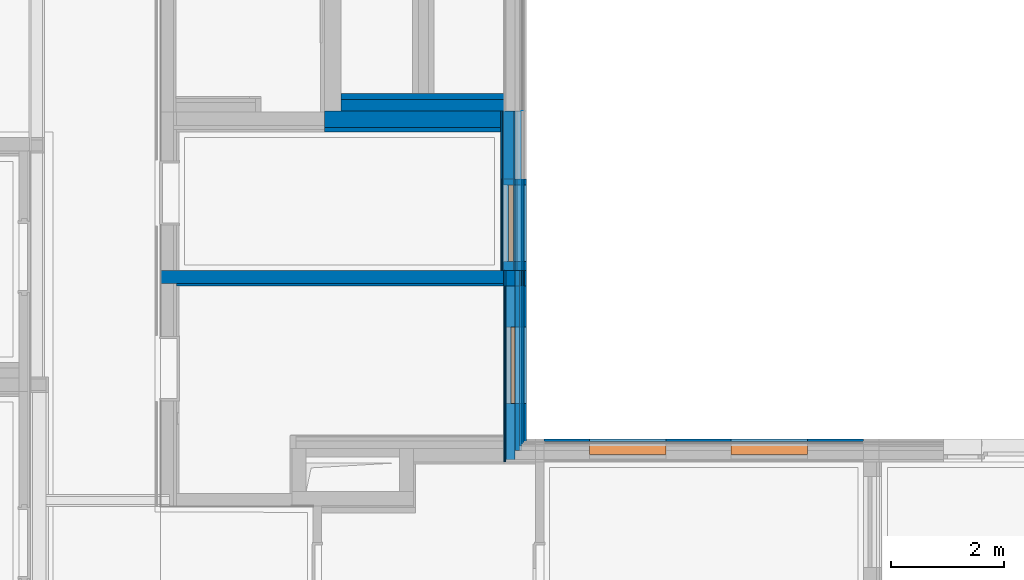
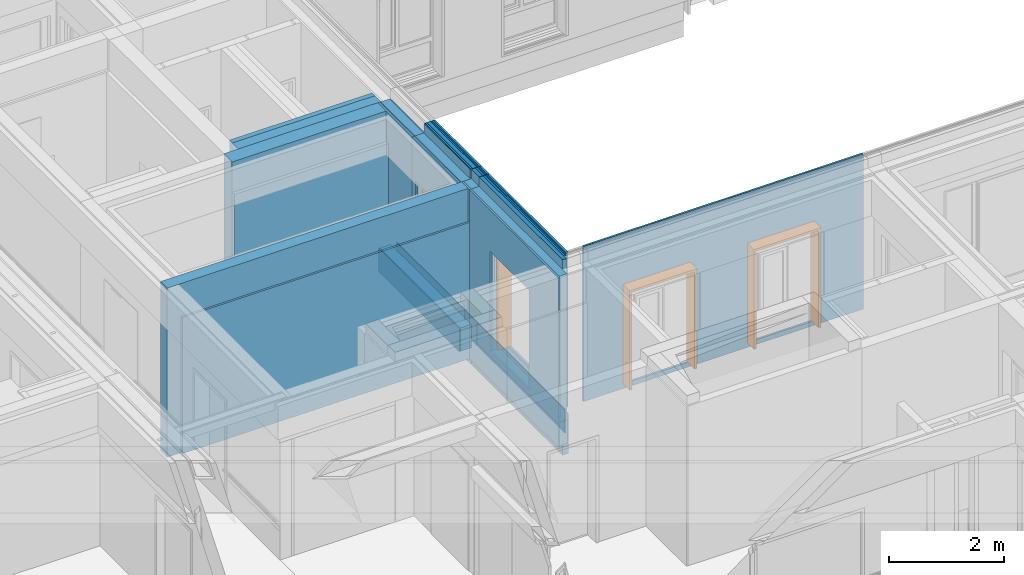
# One storey, part 30 of 207: 42 walls, 4 proxies, 18 openings.
"""IFC4 building model written with IfcOpenShell, lengths in metres."""

from ifc_helpers import new_model, entity, si_unit, converted_unit, derived_unit, frame, frame_2d, origin, origin_with_axes, place, context, subcontext, project, spatial, polyline, rectangle, outline, extrude, faceted_brep, material, element, fill, save


model = new_model("IFC4")

# Units and contexts
model_context = context("Model", 3, precision=1e-05, world=origin())
body_context = subcontext(model_context, "Body", "Model", "MODEL_VIEW")
ifc_project = project(units=[si_unit("LENGTHUNIT", "METRE"), si_unit("AREAUNIT", "SQUARE_METRE"), si_unit("VOLUMEUNIT", "CUBIC_METRE"), si_unit("MASSUNIT", "GRAM", prefix="KILO"), converted_unit("PLANEANGLEUNIT", "DEGREE", entity("IfcPlaneAngleMeasure", 0.0174532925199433), si_unit("PLANEANGLEUNIT", "RADIAN"), dimensions=[0, 0, 0, 0, 0, 0, 0]), derived_unit("THERMALTRANSMITTANCEUNIT", [(si_unit("POWERUNIT", "WATT"), 1), (si_unit("THERMODYNAMICTEMPERATUREUNIT", "KELVIN"), -1), (si_unit("LENGTHUNIT", "METRE"), -2)]), derived_unit("VOLUMETRICFLOWRATEUNIT", [(si_unit("LENGTHUNIT", "METRE"), 3), (converted_unit("TIMEUNIT", "hour", entity("IfcTimeMeasure", 3600.0), si_unit("TIMEUNIT", "SECOND"), dimensions=[0, 0, 1, 0, 0, 0, 0]), -1), (si_unit("LENGTHUNIT", "METRE"), -1)])], contexts=[model_context])

# Site, building, storey
site_placement = place(None, origin())
site = spatial("IfcSite", under=ifc_project, at=site_placement, Name="Psychiatrie Neubau Wunstorf", CompositionType="ELEMENT")
building_placement = place(site_placement, origin())
building = spatial("IfcBuilding", under=site, at=building_placement, Name="Neubau H2 Stationsgebäude", CompositionType="ELEMENT")
storey_placement = place(building_placement, frame((0.0, 0.0, -0.2)))
storey = spatial("IfcBuildingStorey", under=building, at=storey_placement, Name="H2 Ebene 0", CompositionType="ELEMENT", Elevation=-0.2)

# Wall, opening
ifc_material_1 = material(Name="WA-LB")
wall_1_placement = place(storey_placement, frame((43.9390000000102, 13.2174966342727, 0.5), z_axis=(0.0, 0.0, 1.0), x_axis=(2.34443846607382e-15, -1.0, 0.0)))
wall_1 = element("IfcWall", 1, at=wall_1_placement, inside=storey, material=ifc_material_1, context=body_context, shape_type="SweptSolid", body=[
    extrude(rectangle(XDim=3.10349694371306, YDim=0.036, at=frame_2d((1.55174847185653, 0.018), x_axis=(1.0, 0.0))), origin_with_axes(), (0.0, 0.0, 1.0), 3.1),
])
opening_1_placement = place(wall_1_placement, frame((2.07249694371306, 0.0360000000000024, 0.1), z_axis=(0.0, -1.0, 0.0), x_axis=(0.0, 0.0, 1.0)))
element("IfcOpeningElement", 2, at=opening_1_placement, cuts=wall_1, Name="Fensteröffnung", ObjectType="Opening", context=body_context, shape_type="SweptSolid", body=[
    extrude(outline(polyline([(2.12, 1.35), (2.12, 0.0), (0.0, 0.0), (0.0, 1.35), (2.12, 1.35)])), origin_with_axes(), (0.0, 0.0, 1.0), 0.036),
])

ifc_material_2 = material(Name="WA-HD")
wall_2_placement = place(storey_placement, frame((43.9750000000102, 13.2174966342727, 0.5), z_axis=(0.0, 0.0, 1.0), x_axis=(2.37195268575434e-15, -1.0, 0.0)))
wall_2 = element("IfcWall", 3, at=wall_2_placement, inside=storey, material=ifc_material_2, context=body_context, shape_type="SweptSolid", body=[
    extrude(rectangle(XDim=3.06749694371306, YDim=0.16, at=frame_2d((1.53374847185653, 0.08), x_axis=(1.0, 0.0))), origin_with_axes(), (0.0, 0.0, 1.0), 3.1),
])
opening_2_placement = place(wall_2_placement, frame((2.07249694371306, 0.160000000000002, 0.1), z_axis=(-2.8421709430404e-15, -1.0, 0.0), x_axis=(0.0, 0.0, 1.0)))
element("IfcOpeningElement", 4, at=opening_2_placement, cuts=wall_2, Name="Fensteröffnung", ObjectType="Opening", context=body_context, shape_type="SweptSolid", body=[
    extrude(outline(polyline([(2.12, 1.35), (2.12, 0.0), (0.0, 0.0), (0.0, 1.35), (2.12, 1.35)])), origin_with_axes(), (0.0, 0.0, 1.0), 0.16),
])

ifc_material_3 = material(Name="WA-DL")
wall_3_placement = place(storey_placement, frame((44.1350000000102, 13.2174966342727, 0.5), z_axis=(0.0, 0.0, 1.0), x_axis=(2.50248160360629e-15, -1.0, 0.0)))
wall_3 = element("IfcWall", 5, at=wall_3_placement, inside=storey, material=ifc_material_3, context=body_context, shape_type="SweptSolid", body=[
    extrude(rectangle(XDim=2.90749694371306, YDim=0.08, at=frame_2d((1.45374847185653, 0.04), x_axis=(1.0, 0.0))), origin_with_axes(), (0.0, 0.0, 1.0), 3.3),
])
opening_3_placement = place(wall_3_placement, frame((2.07249694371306, 0.0800000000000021, 0.1), z_axis=(0.0, -1.0, 0.0), x_axis=(0.0, 0.0, 1.0)))
element("IfcOpeningElement", 6, at=opening_3_placement, cuts=wall_3, Name="Fensteröffnung", ObjectType="Opening", context=body_context, shape_type="SweptSolid", body=[
    extrude(outline(polyline([(2.12, 1.35), (2.12, 0.0), (0.0, 0.0), (0.0, 1.35), (2.12, 1.35)])), origin_with_axes(), (0.0, 0.0, 1.0), 0.08),
])

ifc_material_4 = material(Name="WA-LB")
wall_4_placement = place(storey_placement, frame((44.2150000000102, 13.2174966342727, 0.5), z_axis=(0.0, 0.0, 1.0), x_axis=(2.5732857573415e-15, -1.0, 0.0)))
wall_4 = element("IfcWall", 7, at=wall_4_placement, inside=storey, material=ifc_material_4, context=body_context, shape_type="SweptSolid", body=[
    extrude(rectangle(XDim=2.82749694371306, YDim=0.036, at=frame_2d((1.41374847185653, 0.018), x_axis=(1.0, 0.0))), origin_with_axes(), (0.0, 0.0, 1.0), 3.3),
])
opening_4_placement = place(wall_4_placement, frame((2.07249694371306, 0.0360000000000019, 0.1), z_axis=(0.0, -1.0, 0.0), x_axis=(0.0, 0.0, 1.0)))
element("IfcOpeningElement", 8, at=opening_4_placement, cuts=wall_4, Name="Fensteröffnung", ObjectType="Opening", context=body_context, shape_type="SweptSolid", body=[
    extrude(outline(polyline([(2.12, 1.35), (2.12, 0.0), (0.0, 0.0), (0.0, 1.35), (2.12, 1.35)])), origin_with_axes(), (0.0, 0.0, 1.0), 0.036),
])

ifc_material_5 = material(Name="WA-KL")
wall_5_placement = place(storey_placement, frame((44.2510000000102, 13.2174966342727, 0.5), z_axis=(0.0, 0.0, 1.0), x_axis=(2.60647163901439e-15, -1.0, 0.0)))
wall_5 = element("IfcWall", 9, at=wall_5_placement, inside=storey, material=ifc_material_5, context=body_context, shape_type="SweptSolid", body=[
    extrude(rectangle(XDim=2.79149694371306, YDim=0.024, at=frame_2d((1.39574847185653, 0.012), x_axis=(1.0, 0.0))), origin_with_axes(), (0.0, 0.0, 1.0), 3.3),
])
opening_5_placement = place(wall_5_placement, frame((2.07249694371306, 0.0240000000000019, 0.1), z_axis=(0.0, -1.0, 0.0), x_axis=(0.0, 0.0, 1.0)))
element("IfcOpeningElement", 10, at=opening_5_placement, cuts=wall_5, Name="Fensteröffnung", ObjectType="Opening", context=body_context, shape_type="SweptSolid", body=[
    extrude(outline(polyline([(2.12, 1.35), (2.12, 0.0), (0.0, 0.0), (0.0, 1.35), (2.12, 1.35)])), origin_with_axes(), (0.0, 0.0, 1.0), 0.024),
])

ifc_material_6 = material(Name="WA-TL")
wall_6_placement = place(storey_placement, frame((44.2750000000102, 13.2174966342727, 0.5), z_axis=(0.0, 0.0, 1.0), x_axis=(2.62907521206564e-15, -1.0, 0.0)))
wall_6 = element("IfcWall", 11, at=wall_6_placement, inside=storey, material=ifc_material_6, context=body_context, shape_type="SweptSolid", body=[
    extrude(rectangle(XDim=2.76749694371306, YDim=0.024, at=frame_2d((1.38374847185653, 0.012), x_axis=(1.0, 0.0))), origin_with_axes(), (0.0, 0.0, 1.0), 3.3),
])
opening_6_placement = place(wall_6_placement, frame((2.07249694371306, 0.0240000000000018, 0.1), z_axis=(0.0, -1.0, 0.0), x_axis=(0.0, 0.0, 1.0)))
element("IfcOpeningElement", 12, at=opening_6_placement, cuts=wall_6, Name="Fensteröffnung", ObjectType="Opening", context=body_context, shape_type="SweptSolid", body=[
    extrude(outline(polyline([(2.12, 1.35), (2.12, 0.0), (0.0, 0.0), (0.0, 1.35), (2.12, 1.35)])), origin_with_axes(), (0.0, 0.0, 1.0), 0.024),
])

# Wall, opening, proxy
ifc_material_7 = material(Name="WA-HS")
wall_7_placement = place(storey_placement, frame((44.2990000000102, 13.2174966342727, 0.5), z_axis=(0.0, 0.0, 1.0), x_axis=(2.65207425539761e-15, -1.0, 0.0)))
wall_7 = element("IfcWall", 13, at=wall_7_placement, inside=storey, material=ifc_material_7, context=body_context, shape_type="SweptSolid", body=[
    extrude(rectangle(XDim=2.74349694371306, YDim=0.042, at=frame_2d((1.37174847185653, 0.021), x_axis=(1.0, 0.0))), origin_with_axes(), (0.0, 0.0, 1.0), 3.3),
])
opening_7_placement = place(wall_7_placement, frame((2.07249694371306, 0.0420000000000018, 0.1), z_axis=(0.0, -1.0, 0.0), x_axis=(0.0, 0.0, 1.0)))
opening_7 = element("IfcOpeningElement", 14, at=opening_7_placement, cuts=wall_7, Name="Fensteröffnung", ObjectType="Opening", context=body_context, shape_type="SweptSolid", body=[
    extrude(outline(polyline([(2.12, 1.35), (2.12, 0.0), (0.0, 0.0), (0.0, 1.35), (2.12, 1.35)])), origin_with_axes(), (0.0, 0.0, 1.0), 0.042),
])
ifc_material_8 = material(Name="WA-HS")
proxy_1_placement = place(opening_7_placement, frame((0.0, 0.0, 0.275000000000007)))
proxy_1 = element("IfcBuildingElementProxy", 15, at=proxy_1_placement, inside=storey, material=ifc_material_8, context=body_context, shape_type="Brep", body=[
    faceted_brep([(0.0, 0.0, -0.275000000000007), (0.0, 0.0, 0.0), (2.12, 0.0, 0.0), (2.12, 0.0, -0.275000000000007), (0.0, 0.05, 0.0), (0.0, 0.0500000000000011, -0.275000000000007), (2.07, 0.0500000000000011, -0.275000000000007), (2.07, 0.05, 0.0), (2.12, 1.35, 0.0), (2.12, 1.35, -0.275000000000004), (0.0, 1.35, -0.275000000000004), (0.0, 1.3, -0.275000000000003), (2.07, 1.3, -0.275000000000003), (2.07, 1.3, 0.0), (0.0, 1.3, 0.0), (0.0, 1.35, 0.0)], [[[0, 1, 2, 3]], [[4, 5, 6, 7]], [[0, 5, 4, 1]], [[3, 2, 8, 9]], [[6, 5, 0, 3, 9, 10, 11, 12]], [[13, 14, 15, 8, 2, 1, 4, 7]], [[7, 6, 12, 13]], [[11, 14, 13, 12]], [[15, 10, 9, 8]], [[11, 10, 15, 14]]], orient=[[False], [False], [False], [False], [False], [False], [False], [False], [False], [False]]),
])
fill(opening_7, proxy_1)

# Wall, openings, proxies
ifc_material_9 = material(Name="WA-HS")
wall_8_placement = place(storey_placement, frame((44.65, 10.4739996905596, 0.5), z_axis=(0.0, 0.0, 1.0), x_axis=(1.0, -3.22744748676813e-16, 0.0)))
wall_8 = element("IfcWall", 16, at=wall_8_placement, inside=storey, material=ifc_material_9, context=body_context, shape_type="SweptSolid", body=[
    extrude(rectangle(XDim=5.63600000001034, YDim=0.042, at=frame_2d((2.81800000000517, 0.021), x_axis=(1.0, 0.0))), origin_with_axes(), (0.0, 0.0, 1.0), 3.3),
])
opening_8_placement = place(wall_8_placement, frame((4.64870000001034, 0.0419999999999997, 0.1), z_axis=(0.0, -1.0, 0.0), x_axis=(0.0, 0.0, 1.0)))
opening_8 = element("IfcOpeningElement", 17, at=opening_8_placement, cuts=wall_8, Name="Fensteröffnung", ObjectType="Opening", context=body_context, shape_type="SweptSolid", body=[
    extrude(outline(polyline([(2.12, 1.35), (2.12, 0.0), (0.0, 0.0), (0.0, 1.35), (2.12, 1.35)])), origin_with_axes(), (0.0, 0.0, 1.0), 0.042),
])
opening_9_placement = place(wall_8_placement, frame((2.14870000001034, 0.0420000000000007, 0.1), z_axis=(0.0, -1.0, 0.0), x_axis=(0.0, 0.0, 1.0)))
opening_9 = element("IfcOpeningElement", 18, at=opening_9_placement, cuts=wall_8, Name="Fensteröffnung", ObjectType="Opening", context=body_context, shape_type="SweptSolid", body=[
    extrude(outline(polyline([(2.12, 1.35), (2.12, 0.0), (0.0, 0.0), (0.0, 1.35), (2.12, 1.35)])), origin_with_axes(), (0.0, 0.0, 1.0), 0.042),
])
ifc_material_10 = material(Name="WA-HS")
proxy_2_placement = place(opening_8_placement, frame((0.0, 1.35, 0.275)))
proxy_2 = element("IfcBuildingElementProxy", 19, at=proxy_2_placement, inside=storey, material=ifc_material_10, context=body_context, shape_type="Brep", body=[
    faceted_brep([(0.0, -1.35, -0.275), (0.0, -1.35, 0.0), (2.12, -1.35, 0.0), (2.12, -1.35, -0.275), (0.0, -1.3, 0.0), (0.0, -1.3, -0.275), (2.07, -1.3, -0.275), (2.07, -1.3, 0.0), (2.12, 0.0, 0.0), (2.12, 0.0, -0.275), (0.0, 0.0, -0.275), (0.0, -0.0499999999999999, -0.275), (2.07, -0.0499999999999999, -0.275), (2.07, -0.05, 0.0), (0.0, -0.05, 0.0), (0.0, 0.0, 0.0)], [[[0, 1, 2, 3]], [[4, 5, 6, 7]], [[0, 5, 4, 1]], [[3, 2, 8, 9]], [[6, 5, 0, 3, 9, 10, 11, 12]], [[13, 14, 15, 8, 2, 1, 4, 7]], [[7, 6, 12, 13]], [[11, 14, 13, 12]], [[15, 10, 9, 8]], [[11, 10, 15, 14]]], orient=[[False], [False], [False], [False], [False], [False], [False], [False], [False], [False]]),
])
fill(opening_8, proxy_2)
ifc_material_11 = material(Name="WA-HS")
proxy_3_placement = place(opening_9_placement, frame((0.0, 1.35, 0.275)))
proxy_3 = element("IfcBuildingElementProxy", 20, at=proxy_3_placement, inside=storey, material=ifc_material_11, context=body_context, shape_type="Brep", body=[
    faceted_brep([(0.0, -1.35, -0.275), (0.0, -1.35, 0.0), (2.12, -1.35, 0.0), (2.12, -1.35, -0.275), (0.0, -1.3, 0.0), (0.0, -1.3, -0.275), (2.07, -1.3, -0.275), (2.07, -1.3, 0.0), (2.12, 0.0, 0.0), (2.12, 0.0, -0.275), (0.0, 0.0, -0.275), (0.0, -0.0499999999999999, -0.275), (2.07, -0.0499999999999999, -0.275), (2.07, -0.05, 0.0), (0.0, -0.05, 0.0), (0.0, 0.0, 0.0)], [[[0, 1, 2, 3]], [[4, 5, 6, 7]], [[0, 5, 4, 1]], [[3, 2, 8, 9]], [[6, 5, 0, 3, 9, 10, 11, 12]], [[13, 14, 15, 8, 2, 1, 4, 7]], [[7, 6, 12, 13]], [[11, 14, 13, 12]], [[15, 10, 9, 8]], [[11, 10, 15, 14]]], orient=[[False], [False], [False], [False], [False], [False], [False], [False], [False], [False]]),
])
fill(opening_9, proxy_3)

# Walls
ifc_material_12 = material(Name="WA-LB")
wall_9_placement = place(storey_placement, frame((43.8790000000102, 16.3005060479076, 0.5), z_axis=(0.0, 0.0, 1.0), x_axis=(0.0, -1.0, 0.0)))
element("IfcWall", 21, at=wall_9_placement, inside=storey, material=ifc_material_12, context=body_context, shape_type="SweptSolid", body=[
    extrude(rectangle(XDim=1.19550635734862, YDim=0.036, at=frame_2d((0.597753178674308, 0.018), x_axis=(1.0, 0.0))), origin_with_axes(), (0.0, 0.0, 1.0), 3.1),
])
ifc_material_13 = material(Name="WA-LB")
wall_10_placement = place(storey_placement, frame((43.9150000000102, 16.3005060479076, 0.5), z_axis=(0.0, 0.0, 1.0), x_axis=(0.0, -1.0, 0.0)))
element("IfcWall", 22, at=wall_10_placement, inside=storey, material=ifc_material_13, context=body_context, shape_type="SweptSolid", body=[
    extrude(rectangle(XDim=1.19550635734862, YDim=0.019, at=frame_2d((0.597753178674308, 0.0095), x_axis=(1.0, 0.0))), origin_with_axes(), (0.0, 0.0, 1.0), 3.1),
])
ifc_material_14 = material(Name="WA-HD")
wall_11_placement = place(storey_placement, frame((43.9340000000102, 16.3005060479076, 0.5), z_axis=(0.0, 0.0, 1.0), x_axis=(0.0, -1.0, 0.0)))
element("IfcWall", 23, at=wall_11_placement, inside=storey, material=ifc_material_14, context=body_context, shape_type="SweptSolid", body=[
    extrude(rectangle(XDim=1.19550635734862, YDim=0.18, at=frame_2d((0.597753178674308, 0.09), x_axis=(1.0, 0.0))), origin_with_axes(), (0.0, 0.0, 1.0), 3.1),
])
ifc_material_15 = material(Name="WA-LB")
wall_12_placement = place(storey_placement, frame((44.1140000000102, 16.3005060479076, 0.5), z_axis=(0.0, 0.0, 1.0), x_axis=(0.0, -1.0, 0.0)))
element("IfcWall", 24, at=wall_12_placement, inside=storey, material=ifc_material_15, context=body_context, shape_type="SweptSolid", body=[
    extrude(rectangle(XDim=1.19550635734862, YDim=0.019, at=frame_2d((0.597753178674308, 0.0095), x_axis=(1.0, 0.0))), origin_with_axes(), (0.0, 0.0, 1.0), 3.1),
])

# Wall, opening
ifc_material_16 = material(Name="WA-LB")
wall_13_placement = place(storey_placement, frame((43.8790000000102, 15.1049996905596, 0.5), z_axis=(0.0, 0.0, 1.0), x_axis=(0.0, -1.0, 0.0)))
wall_13 = element("IfcWall", 25, at=wall_13_placement, inside=storey, material=ifc_material_16, context=body_context, shape_type="SweptSolid", body=[
    extrude(rectangle(XDim=1.6155030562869, YDim=0.036, at=frame_2d((0.807751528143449, 0.018), x_axis=(1.0, 0.0))), origin_with_axes(), (0.0, 0.0, 1.0), 3.1),
])
opening_10_placement = place(wall_13_placement, frame((1.4600030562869, 0.036, 0.1), z_axis=(0.0, -1.0, 0.0), x_axis=(0.0, 0.0, 1.0)))
element("IfcOpeningElement", 26, at=opening_10_placement, cuts=wall_13, Name="Fensteröffnung", ObjectType="Opening", context=body_context, shape_type="SweptSolid", body=[
    extrude(outline(polyline([(2.12, 1.35), (2.12, 0.0), (0.0, 0.0), (0.0, 1.35), (2.12, 1.35)])), origin_with_axes(), (0.0, 0.0, 1.0), 0.036),
])

ifc_material_17 = material(Name="WA-LB")
wall_14_placement = place(storey_placement, frame((43.9150000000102, 15.1049996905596, 0.5), z_axis=(0.0, 0.0, 1.0), x_axis=(0.0, -1.0, 0.0)))
wall_14 = element("IfcWall", 27, at=wall_14_placement, inside=storey, material=ifc_material_17, context=body_context, shape_type="SweptSolid", body=[
    extrude(rectangle(XDim=1.6155030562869, YDim=0.019, at=frame_2d((0.807751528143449, 0.0095), x_axis=(1.0, 0.0))), origin_with_axes(), (0.0, 0.0, 1.0), 3.1),
])
opening_11_placement = place(wall_14_placement, frame((1.4600030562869, 0.019, 0.1), z_axis=(0.0, -1.0, 0.0), x_axis=(0.0, 0.0, 1.0)))
element("IfcOpeningElement", 28, at=opening_11_placement, cuts=wall_14, Name="Fensteröffnung", ObjectType="Opening", context=body_context, shape_type="SweptSolid", body=[
    extrude(outline(polyline([(2.12, 1.35), (2.12, 0.0), (0.0, 0.0), (0.0, 1.35), (2.12, 1.35)])), origin_with_axes(), (0.0, 0.0, 1.0), 0.019),
])

ifc_material_18 = material(Name="WA-HD")
wall_15_placement = place(storey_placement, frame((43.9340000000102, 15.1049996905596, 0.5), z_axis=(0.0, 0.0, 1.0), x_axis=(0.0, -1.0, 0.0)))
wall_15 = element("IfcWall", 29, at=wall_15_placement, inside=storey, material=ifc_material_18, context=body_context, shape_type="SweptSolid", body=[
    extrude(rectangle(XDim=1.6155030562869, YDim=0.18, at=frame_2d((0.807751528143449, 0.09), x_axis=(1.0, 0.0))), origin_with_axes(), (0.0, 0.0, 1.0), 3.1),
])
opening_12_placement = place(wall_15_placement, frame((1.4600030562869, 0.18, 0.1), z_axis=(0.0, -1.0, 0.0), x_axis=(0.0, 0.0, 1.0)))
element("IfcOpeningElement", 30, at=opening_12_placement, cuts=wall_15, Name="Fensteröffnung", ObjectType="Opening", context=body_context, shape_type="SweptSolid", body=[
    extrude(outline(polyline([(2.12, 1.35), (2.12, 0.0), (0.0, 0.0), (0.0, 1.35), (2.12, 1.35)])), origin_with_axes(), (0.0, 0.0, 1.0), 0.18),
])

ifc_material_19 = material(Name="WA-LB")
wall_16_placement = place(storey_placement, frame((44.1140000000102, 15.1049996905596, 0.5), z_axis=(0.0, 0.0, 1.0), x_axis=(0.0, -1.0, 0.0)))
wall_16 = element("IfcWall", 31, at=wall_16_placement, inside=storey, material=ifc_material_19, context=body_context, shape_type="SweptSolid", body=[
    extrude(rectangle(XDim=1.6155030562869, YDim=0.019, at=frame_2d((0.807751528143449, 0.0095), x_axis=(1.0, 0.0))), origin_with_axes(), (0.0, 0.0, 1.0), 3.3),
])
opening_13_placement = place(wall_16_placement, frame((1.4600030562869, 0.019, 0.1), z_axis=(0.0, -1.0, 0.0), x_axis=(0.0, 0.0, 1.0)))
element("IfcOpeningElement", 32, at=opening_13_placement, cuts=wall_16, Name="Fensteröffnung", ObjectType="Opening", context=body_context, shape_type="SweptSolid", body=[
    extrude(outline(polyline([(2.12, 1.35), (2.12, 0.0), (0.0, 0.0), (0.0, 1.35), (2.12, 1.35)])), origin_with_axes(), (0.0, 0.0, 1.0), 0.019),
])

ifc_material_20 = material(Name="WA-LB")
wall_17_placement = place(storey_placement, frame((44.1330000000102, 15.1049996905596, 0.5), z_axis=(0.0, 0.0, 1.0), x_axis=(0.0, -1.0, 0.0)))
wall_17 = element("IfcWall", 33, at=wall_17_placement, inside=storey, material=ifc_material_20, context=body_context, shape_type="SweptSolid", body=[
    extrude(rectangle(XDim=1.6155030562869, YDim=0.036, at=frame_2d((0.807751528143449, 0.018), x_axis=(1.0, 0.0))), origin_with_axes(), (0.0, 0.0, 1.0), 3.3),
])
opening_14_placement = place(wall_17_placement, frame((1.4600030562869, 0.036, 0.1), z_axis=(0.0, -1.0, 0.0), x_axis=(0.0, 0.0, 1.0)))
element("IfcOpeningElement", 34, at=opening_14_placement, cuts=wall_17, Name="Fensteröffnung", ObjectType="Opening", context=body_context, shape_type="SweptSolid", body=[
    extrude(outline(polyline([(2.12, 1.35), (2.12, 0.0), (0.0, 0.0), (0.0, 1.35), (2.12, 1.35)])), origin_with_axes(), (0.0, 0.0, 1.0), 0.036),
])

ifc_material_21 = material(Name="WA-DL")
wall_18_placement = place(storey_placement, frame((44.1690000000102, 15.1049996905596, 0.5), z_axis=(0.0, 0.0, 1.0), x_axis=(0.0, -1.0, 0.0)))
wall_18 = element("IfcWall", 35, at=wall_18_placement, inside=storey, material=ifc_material_21, context=body_context, shape_type="SweptSolid", body=[
    extrude(rectangle(XDim=1.6155030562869, YDim=0.08, at=frame_2d((0.807751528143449, 0.04), x_axis=(1.0, 0.0))), origin_with_axes(), (0.0, 0.0, 1.0), 3.3),
])
opening_15_placement = place(wall_18_placement, frame((1.4600030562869, 0.08, 0.1), z_axis=(0.0, -1.0, 0.0), x_axis=(0.0, 0.0, 1.0)))
element("IfcOpeningElement", 36, at=opening_15_placement, cuts=wall_18, Name="Fensteröffnung", ObjectType="Opening", context=body_context, shape_type="SweptSolid", body=[
    extrude(outline(polyline([(2.12, 1.35), (2.12, 0.0), (0.0, 0.0), (0.0, 1.35), (2.12, 1.35)])), origin_with_axes(), (0.0, 0.0, 1.0), 0.08),
])

ifc_material_22 = material(Name="WA-KL")
wall_19_placement = place(storey_placement, frame((44.2490000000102, 15.1049996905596, 0.5), z_axis=(0.0, 0.0, 1.0), x_axis=(0.0, -1.0, 0.0)))
wall_19 = element("IfcWall", 37, at=wall_19_placement, inside=storey, material=ifc_material_22, context=body_context, shape_type="SweptSolid", body=[
    extrude(rectangle(XDim=1.6155030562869, YDim=0.025, at=frame_2d((0.807751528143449, 0.0125), x_axis=(1.0, 0.0))), origin_with_axes(), (0.0, 0.0, 1.0), 3.3),
])
opening_16_placement = place(wall_19_placement, frame((1.4600030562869, 0.025, 0.1), z_axis=(0.0, -1.0, 0.0), x_axis=(0.0, 0.0, 1.0)))
element("IfcOpeningElement", 38, at=opening_16_placement, cuts=wall_19, Name="Fensteröffnung", ObjectType="Opening", context=body_context, shape_type="SweptSolid", body=[
    extrude(outline(polyline([(2.12, 1.35), (2.12, 0.0), (0.0, 0.0), (0.0, 1.35), (2.12, 1.35)])), origin_with_axes(), (0.0, 0.0, 1.0), 0.025),
])

ifc_material_23 = material(Name="WA-TL")
wall_20_placement = place(storey_placement, frame((44.2740000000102, 15.1049996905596, 0.5), z_axis=(0.0, 0.0, 1.0), x_axis=(0.0, -1.0, 0.0)))
wall_20 = element("IfcWall", 39, at=wall_20_placement, inside=storey, material=ifc_material_23, context=body_context, shape_type="SweptSolid", body=[
    extrude(rectangle(XDim=1.6155030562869, YDim=0.025, at=frame_2d((0.807751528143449, 0.0125), x_axis=(1.0, 0.0))), origin_with_axes(), (0.0, 0.0, 1.0), 3.3),
])
opening_17_placement = place(wall_20_placement, frame((1.4600030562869, 0.025, 0.1), z_axis=(0.0, -1.0, 0.0), x_axis=(0.0, 0.0, 1.0)))
element("IfcOpeningElement", 40, at=opening_17_placement, cuts=wall_20, Name="Fensteröffnung", ObjectType="Opening", context=body_context, shape_type="SweptSolid", body=[
    extrude(outline(polyline([(2.12, 1.35), (2.12, 0.0), (0.0, 0.0), (0.0, 1.35), (2.12, 1.35)])), origin_with_axes(), (0.0, 0.0, 1.0), 0.025),
])

# Wall, opening, proxy
ifc_material_24 = material(Name="WA-HS")
wall_21_placement = place(storey_placement, frame((44.2990000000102, 15.1049996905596, 0.5), z_axis=(0.0, 0.0, 1.0), x_axis=(0.0, -1.0, 0.0)))
wall_21 = element("IfcWall", 41, at=wall_21_placement, inside=storey, material=ifc_material_24, context=body_context, shape_type="SweptSolid", body=[
    extrude(rectangle(XDim=1.6155030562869, YDim=0.042, at=frame_2d((0.807751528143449, 0.021), x_axis=(1.0, 0.0))), origin_with_axes(), (0.0, 0.0, 1.0), 3.3),
])
opening_18_placement = place(wall_21_placement, frame((1.4600030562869, 0.042, 0.1), z_axis=(0.0, -1.0, 0.0), x_axis=(0.0, 0.0, 1.0)))
opening_18 = element("IfcOpeningElement", 42, at=opening_18_placement, cuts=wall_21, Name="Fensteröffnung", ObjectType="Opening", context=body_context, shape_type="SweptSolid", body=[
    extrude(outline(polyline([(2.12, 1.35), (2.12, 0.0), (0.0, 0.0), (0.0, 1.35), (2.12, 1.35)])), origin_with_axes(), (0.0, 0.0, 1.0), 0.042),
])
ifc_material_25 = material(Name="WA-HS")
proxy_4_placement = place(opening_18_placement, frame((0.0, 0.0, 0.315)))
proxy_4 = element("IfcBuildingElementProxy", 43, at=proxy_4_placement, inside=storey, material=ifc_material_25, context=body_context, shape_type="Brep", body=[
    faceted_brep([(0.0, 0.0, -0.315), (0.0, 0.0, 0.0), (2.12, 0.0, 0.0), (2.12, 0.0, -0.315), (0.0, 0.05, 0.0), (0.0, 0.05, -0.315), (2.07, 0.05, -0.315), (2.07, 0.05, 0.0), (2.12, 1.35, 0.0), (2.12, 1.35, -0.315), (0.0, 1.35, -0.315), (0.0, 1.3, -0.315), (2.07, 1.3, -0.315), (2.07, 1.3, 0.0), (0.0, 1.3, 0.0), (0.0, 1.35, 0.0)], [[[0, 1, 2, 3]], [[4, 5, 6, 7]], [[0, 5, 4, 1]], [[3, 2, 8, 9]], [[6, 5, 0, 3, 9, 10, 11, 12]], [[13, 14, 15, 8, 2, 1, 4, 7]], [[7, 6, 12, 13]], [[11, 14, 13, 12]], [[15, 10, 9, 8]], [[11, 10, 15, 14]]], orient=[[False], [False], [False], [False], [False], [False], [False], [False], [False], [False]]),
])
fill(opening_18, proxy_4)

# Walls
ifc_material_26 = material(Name="WA-LB")
wall_22_placement = place(storey_placement, frame((43.9390000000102, 13.4894966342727, 0.5), z_axis=(0.0, 0.0, 1.0), x_axis=(0.0, -1.0, 0.0)))
element("IfcWall", 44, at=wall_22_placement, inside=storey, material=ifc_material_26, context=body_context, shape_type="SweptSolid", body=[
    extrude(rectangle(XDim=0.272, YDim=0.036, at=frame_2d((0.136, 0.018), x_axis=(1.0, 0.0))), origin_with_axes(), (0.0, 0.0, 1.0), 3.1),
])
ifc_material_27 = material(Name="WA-HD")
wall_23_placement = place(storey_placement, frame((43.9750000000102, 13.4894966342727, 0.5), z_axis=(0.0, 0.0, 1.0), x_axis=(0.0, -1.0, 0.0)))
element("IfcWall", 45, at=wall_23_placement, inside=storey, material=ifc_material_27, context=body_context, shape_type="SweptSolid", body=[
    extrude(rectangle(XDim=0.272, YDim=0.16, at=frame_2d((0.136, 0.08), x_axis=(1.0, 0.0))), origin_with_axes(), (0.0, 0.0, 1.0), 3.1),
])
ifc_material_28 = material(Name="WA-DL")
wall_24_placement = place(storey_placement, frame((44.1350000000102, 13.4894966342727, 0.5), z_axis=(0.0, 0.0, 1.0), x_axis=(0.0, -1.0, 0.0)))
element("IfcWall", 46, at=wall_24_placement, inside=storey, material=ifc_material_28, context=body_context, shape_type="SweptSolid", body=[
    extrude(rectangle(XDim=0.272, YDim=0.08, at=frame_2d((0.136, 0.04), x_axis=(1.0, 0.0))), origin_with_axes(), (0.0, 0.0, 1.0), 3.3),
])
ifc_material_29 = material(Name="WA-TP")
wall_25_placement = place(storey_placement, frame((44.2150000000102, 13.4894966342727, 0.5), z_axis=(0.0, 0.0, 1.0), x_axis=(0.0, -1.0, 0.0)))
element("IfcWall", 47, at=wall_25_placement, inside=storey, material=ifc_material_29, context=body_context, shape_type="SweptSolid", body=[
    extrude(rectangle(XDim=0.272, YDim=0.036, at=frame_2d((0.136, 0.018), x_axis=(1.0, 0.0))), origin_with_axes(), (0.0, 0.0, 1.0), 3.3),
])
ifc_material_30 = material(Name="WA-KL")
wall_26_placement = place(storey_placement, frame((44.2510000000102, 13.4894966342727, 0.5), z_axis=(0.0, 0.0, 1.0), x_axis=(0.0, -1.0, 0.0)))
element("IfcWall", 48, at=wall_26_placement, inside=storey, material=ifc_material_30, context=body_context, shape_type="SweptSolid", body=[
    extrude(rectangle(XDim=0.272, YDim=0.024, at=frame_2d((0.136, 0.012), x_axis=(1.0, 0.0))), origin_with_axes(), (0.0, 0.0, 1.0), 3.3),
])
ifc_material_31 = material(Name="WA-TL")
wall_27_placement = place(storey_placement, frame((44.2750000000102, 13.4894966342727, 0.5), z_axis=(0.0, 0.0, 1.0), x_axis=(0.0, -1.0, 0.0)))
element("IfcWall", 49, at=wall_27_placement, inside=storey, material=ifc_material_31, context=body_context, shape_type="SweptSolid", body=[
    extrude(rectangle(XDim=0.272, YDim=0.024, at=frame_2d((0.136, 0.012), x_axis=(1.0, 0.0))), origin_with_axes(), (0.0, 0.0, 1.0), 3.3),
])
ifc_material_32 = material(Name="WA-HS")
wall_28_placement = place(storey_placement, frame((44.2990000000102, 13.4894966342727, 0.5), z_axis=(0.0, 0.0, 1.0), x_axis=(0.0, -1.0, 0.0)))
element("IfcWall", 50, at=wall_28_placement, inside=storey, material=ifc_material_32, context=body_context, shape_type="SweptSolid", body=[
    extrude(rectangle(XDim=0.272, YDim=0.042, at=frame_2d((0.136, 0.021), x_axis=(1.0, 0.0))), origin_with_axes(), (0.0, 0.0, 1.0), 3.3),
])
ifc_material_33 = material(Name="WA-LB")
wall_29_placement = place(storey_placement, frame((43.9390000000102, 13.4894966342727, 0.0), z_axis=(0.0, 0.0, 1.0), x_axis=(2.15552190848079e-15, -1.0, 0.0)))
element("IfcWall", 51, at=wall_29_placement, inside=storey, material=ifc_material_33, context=body_context, shape_type="SweptSolid", body=[
    extrude(rectangle(XDim=3.37549694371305, YDim=0.021, at=frame_2d((1.68774847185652, 0.0105), x_axis=(1.0, 0.0))), origin_with_axes(), (0.0, 0.0, 1.0), 0.5),
])
ifc_material_34 = material(Name="WA-STB")
wall_30_placement = place(storey_placement, frame((43.9600000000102, 13.4894966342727, 0.0), z_axis=(0.0, 0.0, 1.0), x_axis=(2.16901602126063e-15, -1.0, 0.0)))
element("IfcWall", 52, at=wall_30_placement, inside=storey, material=ifc_material_34, context=body_context, shape_type="SweptSolid", body=[
    extrude(rectangle(XDim=3.35449694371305, YDim=0.175, at=frame_2d((1.67724847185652, 0.0875), x_axis=(1.0, 0.0))), origin_with_axes(), (0.0, 0.0, 1.0), 0.5),
])
ifc_material_35 = material(Name="WA-DE")
wall_31_placement = place(storey_placement, frame((44.1350000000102, 13.4894966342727, -0.36), z_axis=(0.0, 0.0, 1.0), x_axis=(2.28839899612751e-15, -1.0, 0.0)))
element("IfcWall", 53, at=wall_31_placement, inside=storey, material=ifc_material_35, context=body_context, shape_type="SweptSolid", body=[
    extrude(rectangle(XDim=3.17949694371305, YDim=0.12, at=frame_2d((1.58974847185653, 0.06), x_axis=(1.0, 0.0))), origin_with_axes(), (0.0, 0.0, 1.0), 0.86),
])
ifc_material_36 = material(Name="WA-LB")
wall_32_placement = place(storey_placement, frame((44.2550000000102, 13.4894966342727, 0.0), z_axis=(0.0, 0.0, 1.0), x_axis=(2.37815488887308e-15, -1.0, 0.0)))
element("IfcWall", 54, at=wall_32_placement, inside=storey, material=ifc_material_36, context=body_context, shape_type="SweptSolid", body=[
    extrude(rectangle(XDim=3.05949694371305, YDim=0.015, at=frame_2d((1.52974847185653, 0.0075), x_axis=(1.0, 0.0))), origin_with_axes(), (0.0, 0.0, 1.0), 0.5),
])
ifc_material_37 = material(Name="WA-LB")
wall_33_placement = place(storey_placement, frame((43.8940000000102, 16.3005060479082, 0.0), z_axis=(0.0, 0.0, 1.0), x_axis=(0.0, -1.0, 0.0)))
element("IfcWall", 55, at=wall_33_placement, inside=storey, material=ifc_material_37, context=body_context, shape_type="SweptSolid", body=[
    extrude(rectangle(XDim=2.81100941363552, YDim=0.021, at=frame_2d((1.40550470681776, 0.0105), x_axis=(1.0, 0.0))), origin_with_axes(), (0.0, 0.0, 1.0), 0.5),
])
ifc_material_38 = material(Name="WA-STB")
wall_34_placement = place(storey_placement, frame((43.9150000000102, 16.3005060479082, 0.0), z_axis=(0.0, 0.0, 1.0), x_axis=(0.0, -1.0, 0.0)))
element("IfcWall", 56, at=wall_34_placement, inside=storey, material=ifc_material_38, context=body_context, shape_type="SweptSolid", body=[
    extrude(rectangle(XDim=2.81100941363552, YDim=0.22, at=frame_2d((1.40550470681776, 0.11), x_axis=(1.0, 0.0))), origin_with_axes(), (0.0, 0.0, 1.0), 0.5),
])
ifc_material_39 = material(Name="WA-DE")
wall_35_placement = place(storey_placement, frame((44.1350000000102, 16.3005060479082, -0.36), z_axis=(0.0, 0.0, 1.0), x_axis=(0.0, -1.0, 0.0)))
element("IfcWall", 57, at=wall_35_placement, inside=storey, material=ifc_material_39, context=body_context, shape_type="SweptSolid", body=[
    extrude(rectangle(XDim=2.81100941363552, YDim=0.12, at=frame_2d((1.40550470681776, 0.06), x_axis=(1.0, 0.0))), origin_with_axes(), (0.0, 0.0, 1.0), 0.86),
])
ifc_material_40 = material(Name="WA-LB")
wall_36_placement = place(storey_placement, frame((44.2550000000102, 16.3005060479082, 0.0), z_axis=(0.0, 0.0, 1.0), x_axis=(0.0, -1.0, 0.0)))
element("IfcWall", 58, at=wall_36_placement, inside=storey, material=ifc_material_40, context=body_context, shape_type="SweptSolid", body=[
    extrude(rectangle(XDim=2.81100941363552, YDim=0.015, at=frame_2d((1.40550470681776, 0.0075), x_axis=(1.0, 0.0))), origin_with_axes(), (0.0, 0.0, 1.0), 0.5),
])
ifc_material_41 = material(Name="Installationsraum")
wall_37_placement = place(storey_placement, frame((41.0690000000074, 16.3005060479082, 0.0)))
element("IfcWall", 59, at=wall_37_placement, inside=storey, material=ifc_material_41, context=body_context, shape_type="SweptSolid", body=[
    extrude(rectangle(XDim=2.87, YDim=0.21, at=frame_2d((1.435, 0.105), x_axis=(1.0, 0.0))), origin_with_axes(), (0.0, 0.0, 1.0), 3.6),
])
ifc_material_42 = material(Name="WI-VS")
wall_38_placement = place(storey_placement, frame((41.0690000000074, 16.5105060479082, 0.0)))
element("IfcWall", 60, at=wall_38_placement, inside=storey, material=ifc_material_42, context=body_context, shape_type="SweptSolid", body=[
    extrude(rectangle(XDim=2.87, YDim=0.1, at=frame_2d((1.435, 0.05), x_axis=(1.0, 0.0))), origin_with_axes(), (0.0, 0.0, 1.0), 3.6),
])
ifc_material_43 = material(Name="WI-HW 60")
wall_39_placement = place(storey_placement, frame((43.9390000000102, 13.489496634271, 0.0), z_axis=(0.0, 0.0, 1.0), x_axis=(-1.0, 0.0, 0.0)))
element("IfcWall", 61, at=wall_39_placement, inside=storey, material=ifc_material_43, context=body_context, shape_type="SweptSolid", body=[
    extrude(rectangle(XDim=6.05650000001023, YDim=0.232, at=frame_2d((3.02825000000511, 0.116), x_axis=(1.0, 0.0))), origin_with_axes(), (0.0, 0.0, 1.0), 3.6),
])
ifc_material_44 = material(Name="WI-LB")
wall_40_placement = place(storey_placement, frame((43.9390000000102, 13.257496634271, 0.0), z_axis=(0.0, 0.0, 1.0), x_axis=(-1.0, 0.0, 0.0)))
element("IfcWall", 62, at=wall_40_placement, inside=storey, material=ifc_material_44, context=body_context, shape_type="SweptSolid", body=[
    extrude(rectangle(XDim=5.77450000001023, YDim=0.0395, at=frame_2d((2.88725000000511, 0.01975), x_axis=(1.0, 0.0))), origin_with_axes(), (0.0, 0.0, 1.0), 2.9),
])
ifc_material_45 = material(Name="WI-LB")
wall_41_placement = place(storey_placement, frame((40.7790000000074, 15.9355060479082, 0.0)))
element("IfcWall", 63, at=wall_41_placement, inside=storey, material=ifc_material_45, context=body_context, shape_type="SweptSolid", body=[
    extrude(rectangle(XDim=3.10000000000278, YDim=0.075, at=frame_2d((1.55000000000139, 0.0375), x_axis=(1.0, 0.0))), origin_with_axes(), (0.0, 0.0, 1.0), 2.95),
])
ifc_material_46 = material(Name="WI-HW 60")
wall_42_placement = place(storey_placement, frame((40.7790000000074, 16.0105060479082, 0.0)))
element("IfcWall", 64, at=wall_42_placement, inside=storey, material=ifc_material_46, context=body_context, shape_type="SweptSolid", body=[
    extrude(rectangle(XDim=3.10000000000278, YDim=0.29, at=frame_2d((1.55000000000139, 0.145), x_axis=(1.0, 0.0))), origin_with_axes(), (0.0, 0.0, 1.0), 3.6),
])

save(model, "model.ifc")
